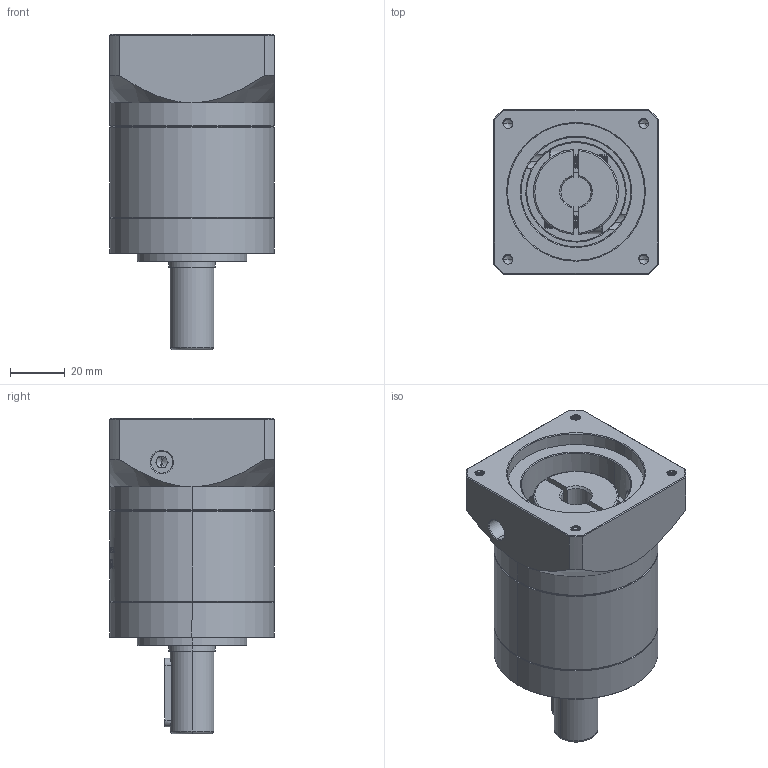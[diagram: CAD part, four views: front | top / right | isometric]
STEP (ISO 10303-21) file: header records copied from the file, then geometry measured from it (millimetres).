
FILE_DESCRIPTION (( 'STEP AP214' ), '1' );
FILE_NAME ('ZE60-D16-L1-11-50-70-M4.STEP', '2022-04-17T15:16:03', ( '' ), ( 'Microsoft' ), 'SwSTEP 2.0', 'SolidWorks 2016', '' );
FILE_SCHEMA (( 'AUTOMOTIVE_DESIGN' ));
Length unit declared in the file: millimetre
Products named in the file (1): ZE60-D16-L1-11-50-70-M4
Bounding box: 60 x 60 x 115 mm (x, y, z)
Volume: 214884.6 mm3; surface area: 42785.4 mm2
Topology: 6 solids, 6 shells, 1706 faces, 4640 edges, 3006 vertices
Faces by surface type: plane 732, cylinder 423, bspline 311, cone 222, torus 18
Entity records: 100048 total; most frequent: CARTESIAN_POINT 42625, ORIENTED_EDGE 9236, DIRECTION 6585, EDGE_CURVE 4618, VERTEX_POINT 3006, LINE 2299, VECTOR 2299, AXIS2_PLACEMENT_3D 2143
